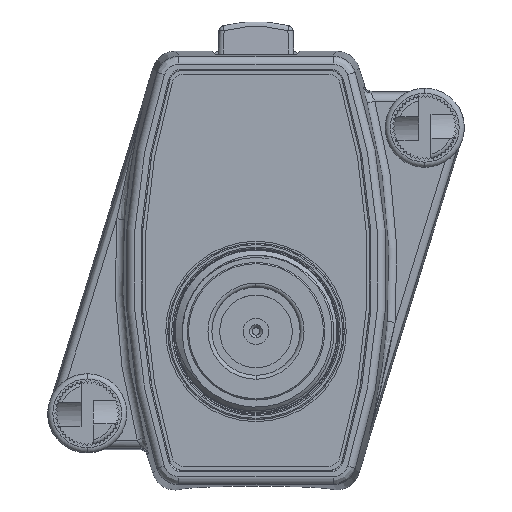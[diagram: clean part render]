
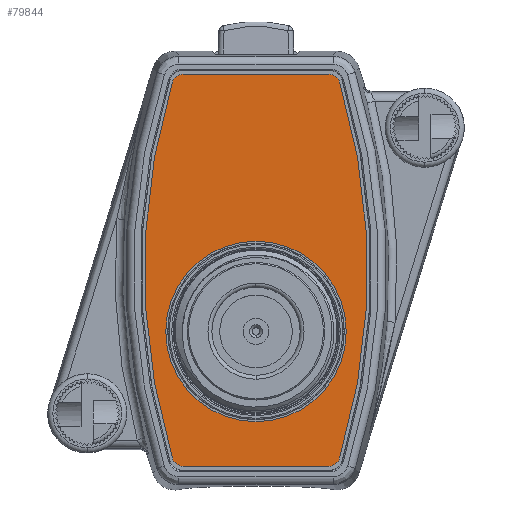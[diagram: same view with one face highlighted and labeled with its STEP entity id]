
A CAD part, top view. The second image highlights one B-rep face of the part: STEP entity #79844.
In plain terms, the highlighted planar face has unit normal (0, 0, 1).
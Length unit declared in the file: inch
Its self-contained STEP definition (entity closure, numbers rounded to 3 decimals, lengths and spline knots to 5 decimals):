
#79619=CARTESIAN_POINT('',(0.,-0.23583,0.01));
#79620=DIRECTION('',(0.,0.,-1.));
#79621=DIRECTION('',(1.,0.,0.));
#79622=AXIS2_PLACEMENT_3D('',#79619,#79620,#79621);
#79624=CARTESIAN_POINT('',(0.,-0.23583,0.01));
#79625=DIRECTION('',(0.,0.,-1.));
#79626=DIRECTION('',(-1.,0.,0.));
#79627=AXIS2_PLACEMENT_3D('',#79624,#79625,#79626);
#79629=CARTESIAN_POINT('',(2.07077,0.,0.01));
#79630=DIRECTION('',(0.,0.,1.));
#79631=DIRECTION('',(-0.957,0.289,0.));
#79632=AXIS2_PLACEMENT_3D('',#79629,#79630,#79631);
#79634=DIRECTION('',(-1.,0.,0.));
#79635=VECTOR('',#79634,0.55864);
#79636=CARTESIAN_POINT('',(0.27932,0.755,0.01));
#79637=LINE('',#79636,#79635);
#79638=CARTESIAN_POINT('',(-2.07077,0.,0.01));
#79639=DIRECTION('',(0.,0.,1.));
#79640=DIRECTION('',(0.957,-0.289,0.));
#79641=AXIS2_PLACEMENT_3D('',#79638,#79639,#79640);
#79643=DIRECTION('',(1.,0.,0.));
#79644=VECTOR('',#79643,0.55864);
#79645=CARTESIAN_POINT('',(-0.27932,-0.755,0.01));
#79646=LINE('',#79645,#79644);
#79660=CARTESIAN_POINT('',(-0.27932,-0.71,0.01));
#79661=DIRECTION('',(0.,0.,1.));
#79662=DIRECTION('',(-0.957,-0.289,0.));
#79663=AXIS2_PLACEMENT_3D('',#79660,#79661,#79662);
#79678=CARTESIAN_POINT('',(0.27932,-0.71,0.01));
#79679=DIRECTION('',(0.,0.,1.));
#79680=DIRECTION('',(0.,-1.,0.));
#79681=AXIS2_PLACEMENT_3D('',#79678,#79679,#79680);
#79696=CARTESIAN_POINT('',(0.27932,0.71,0.01));
#79697=DIRECTION('',(0.,0.,1.));
#79698=DIRECTION('',(0.957,0.289,0.));
#79699=AXIS2_PLACEMENT_3D('',#79696,#79697,#79698);
#79714=CARTESIAN_POINT('',(-0.27932,0.71,0.01));
#79715=DIRECTION('',(0.,0.,1.));
#79716=DIRECTION('',(0.,1.,0.));
#79717=AXIS2_PLACEMENT_3D('',#79714,#79715,#79716);
#79723=CARTESIAN_POINT('',(0.3475,-0.23583,0.01));
#79724=CARTESIAN_POINT('',(-0.3475,-0.23583,0.01));
#79725=VERTEX_POINT('',#79723);
#79726=VERTEX_POINT('',#79724);
#79727=CARTESIAN_POINT('',(-0.27932,-0.755,0.01));
#79729=VERTEX_POINT('',#79727);
#79733=CARTESIAN_POINT('',(-0.3224,-0.72301,0.01));
#79734=VERTEX_POINT('',#79733);
#79735=CARTESIAN_POINT('',(0.3224,-0.72301,0.01));
#79737=VERTEX_POINT('',#79735);
#79741=CARTESIAN_POINT('',(0.27932,-0.755,0.01));
#79742=VERTEX_POINT('',#79741);
#79743=CARTESIAN_POINT('',(0.27932,0.755,0.01));
#79745=VERTEX_POINT('',#79743);
#79749=CARTESIAN_POINT('',(0.3224,0.72301,0.01));
#79750=VERTEX_POINT('',#79749);
#79751=CARTESIAN_POINT('',(-0.3224,0.72301,0.01));
#79753=VERTEX_POINT('',#79751);
#79757=CARTESIAN_POINT('',(-0.27932,0.755,0.01));
#79758=VERTEX_POINT('',#79757);
#79817=CARTESIAN_POINT('',(0.,0.,0.01));
#79818=DIRECTION('',(0.,0.,1.));
#79819=DIRECTION('',(1.,0.,0.));
#79820=AXIS2_PLACEMENT_3D('',#79817,#79818,#79819);
#79821=PLANE('',#79820);
#79823=ORIENTED_EDGE('',*,*,#79822,.F.);
#79825=ORIENTED_EDGE('',*,*,#79824,.F.);
#79827=ORIENTED_EDGE('',*,*,#79826,.F.);
#79829=ORIENTED_EDGE('',*,*,#79828,.F.);
#79831=ORIENTED_EDGE('',*,*,#79830,.F.);
#79833=ORIENTED_EDGE('',*,*,#79832,.F.);
#79835=ORIENTED_EDGE('',*,*,#79834,.F.);
#79837=ORIENTED_EDGE('',*,*,#79836,.F.);
#79838=EDGE_LOOP('',(#79823,#79825,#79827,#79829,#79831,#79833,#79835,#79837));
#79839=FACE_OUTER_BOUND('',#79838,.F.);
#79840=ORIENTED_EDGE('',*,*,#79797,.F.);
#79841=ORIENTED_EDGE('',*,*,#79811,.F.);
#79842=EDGE_LOOP('',(#79840,#79841));
#79843=FACE_BOUND('',#79842,.F.);
#79844=ADVANCED_FACE('',(#79839,#79843),#79821,.T.);
#79623=CIRCLE('',#79622,0.3475);
#79628=CIRCLE('',#79627,0.3475);
#79633=CIRCLE('',#79632,2.5);
#79642=CIRCLE('',#79641,2.5);
#79664=CIRCLE('',#79663,0.045);
#79682=CIRCLE('',#79681,0.045);
#79700=CIRCLE('',#79699,0.045);
#79718=CIRCLE('',#79717,0.045);
#79797=EDGE_CURVE('',#79725,#79726,#79623,.T.);
#79811=EDGE_CURVE('',#79726,#79725,#79628,.T.);
#79822=EDGE_CURVE('',#79734,#79729,#79664,.T.);
#79824=EDGE_CURVE('',#79753,#79734,#79633,.T.);
#79826=EDGE_CURVE('',#79758,#79753,#79718,.T.);
#79828=EDGE_CURVE('',#79745,#79758,#79637,.T.);
#79830=EDGE_CURVE('',#79750,#79745,#79700,.T.);
#79832=EDGE_CURVE('',#79737,#79750,#79642,.T.);
#79834=EDGE_CURVE('',#79742,#79737,#79682,.T.);
#79836=EDGE_CURVE('',#79729,#79742,#79646,.T.);
